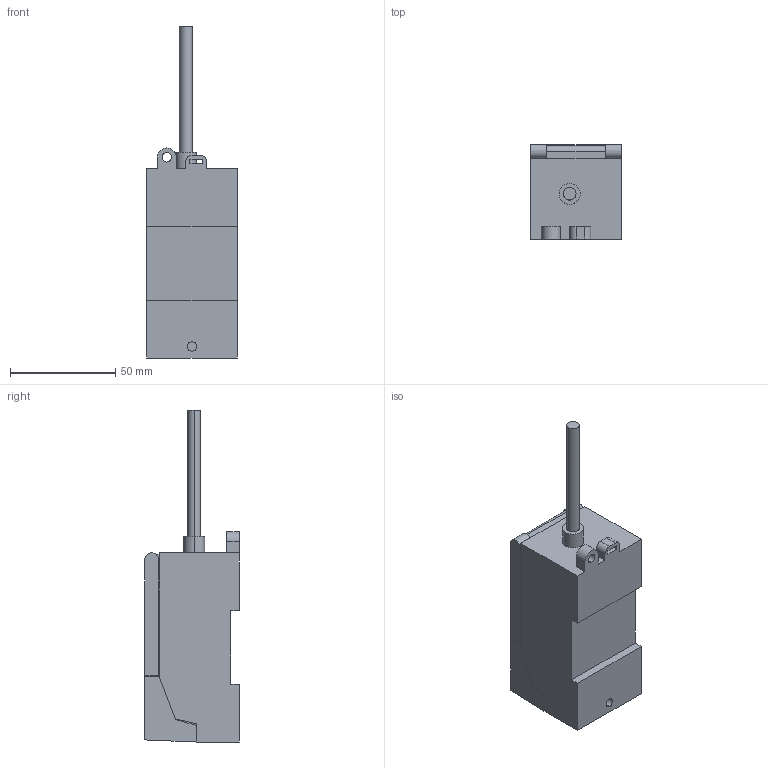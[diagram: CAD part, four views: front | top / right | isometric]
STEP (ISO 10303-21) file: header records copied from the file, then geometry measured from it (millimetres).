
FILE_DESCRIPTION (( 'STEP AP203' ), '1' );
FILE_NAME ('HD-T1C.STEP', '2005-11-09T07:10:26', ( '' ), ( '' ), 'SwSTEP 2.0', 'SolidWorks 2004073', '' );
FILE_SCHEMA (( 'CONFIG_CONTROL_DESIGN' ));
Length unit declared in the file: millimetre
Products named in the file (1): HD-T1C
Bounding box: 43 x 45 x 158 mm (x, y, z)
Volume: 131338.6 mm3; surface area: 35334.7 mm2
Topology: 3 solids, 3 shells, 109 faces, 279 edges, 186 vertices
Faces by surface type: plane 89, cylinder 20
Entity records: 3366 total; most frequent: CARTESIAN_POINT 575, ORIENTED_EDGE 558, DIRECTION 547, EDGE_CURVE 279, VECTOR 231, LINE 231, VERTEX_POINT 186, AXIS2_PLACEMENT_3D 158
